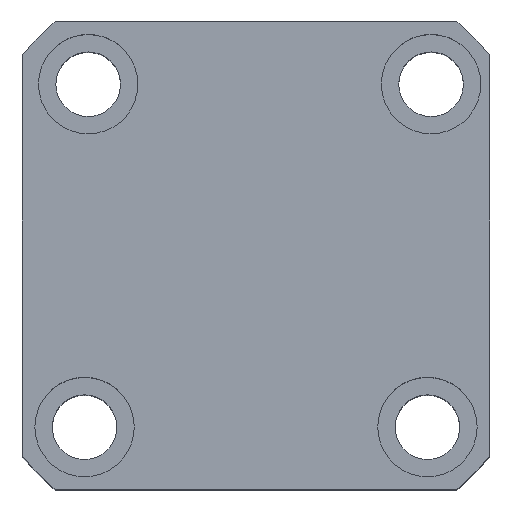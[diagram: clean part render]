
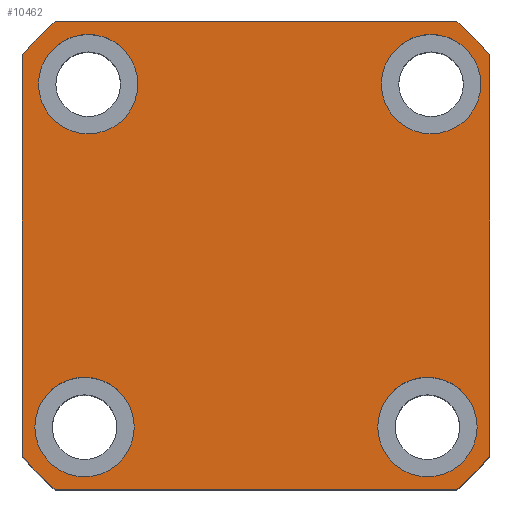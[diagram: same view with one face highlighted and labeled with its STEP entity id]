
A CAD part, top view. The second image highlights one B-rep face of the part: STEP entity #10462.
In plain terms, the highlighted planar face has unit normal (0, 0, 1) as drawn and (0, 0, -1) by its records, which use the part's own axes.
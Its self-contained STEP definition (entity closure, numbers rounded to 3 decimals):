
#428 = VERTEX_POINT ( 'NONE', #6254 ) ;
#610 = CIRCLE ( 'NONE', #16470, 62. ) ;
#674 = CARTESIAN_POINT ( 'NONE',  ( -47., 40.435, 0. ) ) ;
#734 = CARTESIAN_POINT ( 'NONE',  ( 47., -40.435, 0. ) ) ;
#831 = EDGE_CURVE ( 'NONE', #21833, #18284, #19599, .T. ) ;
#878 = ORIENTED_EDGE ( 'NONE', *, *, #16796, .F. ) ;
#949 = DIRECTION ( 'NONE',  ( -1., 0., 0. ) ) ;
#990 = EDGE_CURVE ( 'NONE', #6130, #11542, #5234, .T. ) ;
#1253 = AXIS2_PLACEMENT_3D ( 'NONE', #22355, #19201, #19130 ) ;
#1311 = CARTESIAN_POINT ( 'NONE',  ( 35.23, -34.5, 0. ) ) ;
#1407 = DIRECTION ( 'NONE',  ( 0., 0., -1. ) ) ;
#1513 = EDGE_LOOP ( 'NONE', ( #878, #20546 ) ) ;
#1670 = ORIENTED_EDGE ( 'NONE', *, *, #990, .F. ) ;
#1701 = EDGE_CURVE ( 'NONE', #11819, #428, #20353, .T. ) ;
#1711 = CARTESIAN_POINT ( 'NONE',  ( 0., 0., 0. ) ) ;
#1885 = AXIS2_PLACEMENT_3D ( 'NONE', #6292, #18387, #8034 ) ;
#2056 = VERTEX_POINT ( 'NONE', #14549 ) ;
#2196 = CARTESIAN_POINT ( 'NONE',  ( 47., 47., 0. ) ) ;
#2451 = CARTESIAN_POINT ( 'NONE',  ( 0., 0., 0. ) ) ;
#2584 = CIRCLE ( 'NONE', #6226, 10. ) ;
#2795 = CIRCLE ( 'NONE', #3783, 10. ) ;
#2809 = CIRCLE ( 'NONE', #3915, 10. ) ;
#2811 = CARTESIAN_POINT ( 'NONE',  ( 0., 0., 0. ) ) ;
#2828 = DIRECTION ( 'NONE',  ( 0., 0., -1. ) ) ;
#3035 = DIRECTION ( 'NONE',  ( -1., 0., 0. ) ) ;
#3244 = VERTEX_POINT ( 'NONE', #12668 ) ;
#3591 = ORIENTED_EDGE ( 'NONE', *, *, #13077, .F. ) ;
#3612 = FACE_BOUND ( 'NONE', #13470, .T. ) ;
#3652 = VECTOR ( 'NONE', #19342, 1000. ) ;
#3683 = EDGE_LOOP ( 'NONE', ( #4818, #13620, #12309, #13117, #19583, #4422, #3591, #21506 ) ) ;
#3783 = AXIS2_PLACEMENT_3D ( 'NONE', #21723, #11359, #949 ) ;
#3915 = AXIS2_PLACEMENT_3D ( 'NONE', #11835, #1407, #13565 ) ;
#4009 = EDGE_CURVE ( 'NONE', #9955, #7511, #20330, .T. ) ;
#4153 = VECTOR ( 'NONE', #16080, 1000. ) ;
#4187 = DIRECTION ( 'NONE',  ( 1., 0., 0. ) ) ;
#4252 = ORIENTED_EDGE ( 'NONE', *, *, #11444, .F. ) ;
#4422 = ORIENTED_EDGE ( 'NONE', *, *, #8846, .F. ) ;
#4567 = DIRECTION ( 'NONE',  ( 1., 0., 0. ) ) ;
#4818 = ORIENTED_EDGE ( 'NONE', *, *, #1701, .F. ) ;
#4941 = CIRCLE ( 'NONE', #16878, 10. ) ;
#4961 = CARTESIAN_POINT ( 'NONE',  ( -43.77, -34.5, 0. ) ) ;
#5020 = CARTESIAN_POINT ( 'NONE',  ( 47., 40.435, 0. ) ) ;
#5234 = CIRCLE ( 'NONE', #1253, 10. ) ;
#5796 = DIRECTION ( 'NONE',  ( 0., 0., 1. ) ) ;
#5947 = CARTESIAN_POINT ( 'NONE',  ( -47., 47., 0. ) ) ;
#6049 = CIRCLE ( 'NONE', #12823, 62. ) ;
#6130 = VERTEX_POINT ( 'NONE', #21294 ) ;
#6226 = AXIS2_PLACEMENT_3D ( 'NONE', #13263, #2828, #14987 ) ;
#6254 = CARTESIAN_POINT ( 'NONE',  ( 40.435, 47., 0. ) ) ;
#6292 = CARTESIAN_POINT ( 'NONE',  ( 0., 0., 0. ) ) ;
#7040 = CARTESIAN_POINT ( 'NONE',  ( -34.5, 34.5, 0. ) ) ;
#7155 = CIRCLE ( 'NONE', #11361, 10. ) ;
#7265 = EDGE_LOOP ( 'NONE', ( #1670, #4252 ) ) ;
#7374 = CARTESIAN_POINT ( 'NONE',  ( -47., -47., 0. ) ) ;
#7511 = VERTEX_POINT ( 'NONE', #9898 ) ;
#7672 = FACE_BOUND ( 'NONE', #16707, .T. ) ;
#7997 = DIRECTION ( 'NONE',  ( 1., 0., 0. ) ) ;
#8034 = DIRECTION ( 'NONE',  ( 1., 0., 0. ) ) ;
#8227 = FACE_BOUND ( 'NONE', #1513, .T. ) ;
#8237 = DIRECTION ( 'NONE',  ( -1., 0., 0. ) ) ;
#8798 = DIRECTION ( 'NONE',  ( -1., 0., 0. ) ) ;
#8846 = EDGE_CURVE ( 'NONE', #16286, #21833, #19627, .T. ) ;
#9898 = CARTESIAN_POINT ( 'NONE',  ( 25.23, -34.5, 0. ) ) ;
#9955 = VERTEX_POINT ( 'NONE', #10031 ) ;
#10031 = CARTESIAN_POINT ( 'NONE',  ( 45.23, -34.5, 0. ) ) ;
#10300 = EDGE_CURVE ( 'NONE', #14006, #11819, #17433, .T. ) ;
#10362 = DIRECTION ( 'NONE',  ( 0., 0., -1. ) ) ;
#10462 = ADVANCED_FACE ( 'NONE', ( #8227, #3612, #20981, #7672, #16366 ), #21610, .F. ) ;
#10580 = AXIS2_PLACEMENT_3D ( 'NONE', #11445, #12748, #14468 ) ;
#10675 = ORIENTED_EDGE ( 'NONE', *, *, #12618, .F. ) ;
#11213 = DIRECTION ( 'NONE',  ( 0., -1., 0. ) ) ;
#11313 = VERTEX_POINT ( 'NONE', #4961 ) ;
#11359 = DIRECTION ( 'NONE',  ( 0., 0., -1. ) ) ;
#11361 = AXIS2_PLACEMENT_3D ( 'NONE', #20727, #10362, #22485 ) ;
#11427 = CARTESIAN_POINT ( 'NONE',  ( 44.5, 34.5, 0. ) ) ;
#11444 = EDGE_CURVE ( 'NONE', #11542, #6130, #2795, .T. ) ;
#11445 = CARTESIAN_POINT ( 'NONE',  ( 0., 0., 0. ) ) ;
#11542 = VERTEX_POINT ( 'NONE', #11427 ) ;
#11619 = ORIENTED_EDGE ( 'NONE', *, *, #4009, .F. ) ;
#11819 = VERTEX_POINT ( 'NONE', #5020 ) ;
#11835 = CARTESIAN_POINT ( 'NONE',  ( -33.77, -34.5, 0. ) ) ;
#12309 = ORIENTED_EDGE ( 'NONE', *, *, #22310, .F. ) ;
#12416 = CARTESIAN_POINT ( 'NONE',  ( -47., -40.435, 0. ) ) ;
#12618 = EDGE_CURVE ( 'NONE', #3244, #15137, #4941, .T. ) ;
#12668 = CARTESIAN_POINT ( 'NONE',  ( -44.5, 34.5, 0. ) ) ;
#12748 = DIRECTION ( 'NONE',  ( 0., 0., 1. ) ) ;
#12823 = AXIS2_PLACEMENT_3D ( 'NONE', #2811, #14969, #4567 ) ;
#12923 = CIRCLE ( 'NONE', #18105, 10. ) ;
#12927 = LINE ( 'NONE', #7374, #3652 ) ;
#13077 = EDGE_CURVE ( 'NONE', #15071, #16286, #610, .T. ) ;
#13117 = ORIENTED_EDGE ( 'NONE', *, *, #19220, .F. ) ;
#13263 = CARTESIAN_POINT ( 'NONE',  ( -33.77, -34.5, 0. ) ) ;
#13470 = EDGE_LOOP ( 'NONE', ( #16614, #11619 ) ) ;
#13471 = DIRECTION ( 'NONE',  ( 0., 0., -1. ) ) ;
#13565 = DIRECTION ( 'NONE',  ( -1., 0., 0. ) ) ;
#13613 = CARTESIAN_POINT ( 'NONE',  ( -24.5, 34.5, 0. ) ) ;
#13620 = ORIENTED_EDGE ( 'NONE', *, *, #10300, .F. ) ;
#14006 = VERTEX_POINT ( 'NONE', #734 ) ;
#14468 = DIRECTION ( 'NONE',  ( 1., 0., 0. ) ) ;
#14549 = CARTESIAN_POINT ( 'NONE',  ( -23.77, -34.5, 0. ) ) ;
#14586 = ORIENTED_EDGE ( 'NONE', *, *, #20884, .F. ) ;
#14598 = DIRECTION ( 'NONE',  ( 0., 0., 1. ) ) ;
#14969 = DIRECTION ( 'NONE',  ( 0., 0., 1. ) ) ;
#14987 = DIRECTION ( 'NONE',  ( -1., 0., 0. ) ) ;
#15061 = VECTOR ( 'NONE', #11213, 1000. ) ;
#15071 = VERTEX_POINT ( 'NONE', #20258 ) ;
#15137 = VERTEX_POINT ( 'NONE', #13613 ) ;
#15844 = CARTESIAN_POINT ( 'NONE',  ( 40.435, -47., 0. ) ) ;
#15895 = DIRECTION ( 'NONE',  ( -1., 0., 0. ) ) ;
#16080 = DIRECTION ( 'NONE',  ( 0., 1., 0. ) ) ;
#16120 = VERTEX_POINT ( 'NONE', #15844 ) ;
#16286 = VERTEX_POINT ( 'NONE', #674 ) ;
#16366 = FACE_OUTER_BOUND ( 'NONE', #3683, .T. ) ;
#16470 = AXIS2_PLACEMENT_3D ( 'NONE', #2451, #14598, #4187 ) ;
#16614 = ORIENTED_EDGE ( 'NONE', *, *, #18221, .F. ) ;
#16707 = EDGE_LOOP ( 'NONE', ( #10675, #14586 ) ) ;
#16796 = EDGE_CURVE ( 'NONE', #11313, #2056, #2584, .T. ) ;
#16878 = AXIS2_PLACEMENT_3D ( 'NONE', #7040, #19145, #8798 ) ;
#16924 = VECTOR ( 'NONE', #15895, 1000. ) ;
#16976 = CARTESIAN_POINT ( 'NONE',  ( -40.435, -47., 0. ) ) ;
#17433 = LINE ( 'NONE', #2196, #4153 ) ;
#17471 = LINE ( 'NONE', #21269, #16924 ) ;
#17972 = DIRECTION ( 'NONE',  ( 0., 0., -1. ) ) ;
#18105 = AXIS2_PLACEMENT_3D ( 'NONE', #1311, #13471, #3035 ) ;
#18221 = EDGE_CURVE ( 'NONE', #7511, #9955, #12923, .T. ) ;
#18284 = VERTEX_POINT ( 'NONE', #16976 ) ;
#18387 = DIRECTION ( 'NONE',  ( 0., 0., 1. ) ) ;
#19130 = DIRECTION ( 'NONE',  ( -1., 0., 0. ) ) ;
#19145 = DIRECTION ( 'NONE',  ( 0., 0., -1. ) ) ;
#19201 = DIRECTION ( 'NONE',  ( 0., 0., -1. ) ) ;
#19220 = EDGE_CURVE ( 'NONE', #18284, #16120, #12927, .T. ) ;
#19244 = EDGE_CURVE ( 'NONE', #428, #15071, #17471, .T. ) ;
#19275 = CARTESIAN_POINT ( 'NONE',  ( 35.23, -34.5, 0. ) ) ;
#19342 = DIRECTION ( 'NONE',  ( 1., 0., 0. ) ) ;
#19583 = ORIENTED_EDGE ( 'NONE', *, *, #831, .F. ) ;
#19599 = CIRCLE ( 'NONE', #21890, 62. ) ;
#19627 = LINE ( 'NONE', #5947, #15061 ) ;
#20258 = CARTESIAN_POINT ( 'NONE',  ( -40.435, 47., 0. ) ) ;
#20330 = CIRCLE ( 'NONE', #20881, 10. ) ;
#20353 = CIRCLE ( 'NONE', #10580, 62. ) ;
#20546 = ORIENTED_EDGE ( 'NONE', *, *, #21444, .F. ) ;
#20727 = CARTESIAN_POINT ( 'NONE',  ( -34.5, 34.5, 0. ) ) ;
#20881 = AXIS2_PLACEMENT_3D ( 'NONE', #19275, #17972, #8237 ) ;
#20884 = EDGE_CURVE ( 'NONE', #15137, #3244, #7155, .T. ) ;
#20981 = FACE_BOUND ( 'NONE', #7265, .T. ) ;
#21269 = CARTESIAN_POINT ( 'NONE',  ( -47., 47., 0. ) ) ;
#21294 = CARTESIAN_POINT ( 'NONE',  ( 24.5, 34.5, 0. ) ) ;
#21444 = EDGE_CURVE ( 'NONE', #2056, #11313, #2809, .T. ) ;
#21506 = ORIENTED_EDGE ( 'NONE', *, *, #19244, .F. ) ;
#21610 = PLANE ( 'NONE',  #1885 ) ;
#21723 = CARTESIAN_POINT ( 'NONE',  ( 34.5, 34.5, 0. ) ) ;
#21833 = VERTEX_POINT ( 'NONE', #12416 ) ;
#21890 = AXIS2_PLACEMENT_3D ( 'NONE', #1711, #5796, #7997 ) ;
#22310 = EDGE_CURVE ( 'NONE', #16120, #14006, #6049, .T. ) ;
#22355 = CARTESIAN_POINT ( 'NONE',  ( 34.5, 34.5, 0. ) ) ;
#22485 = DIRECTION ( 'NONE',  ( -1., 0., 0. ) ) ;
